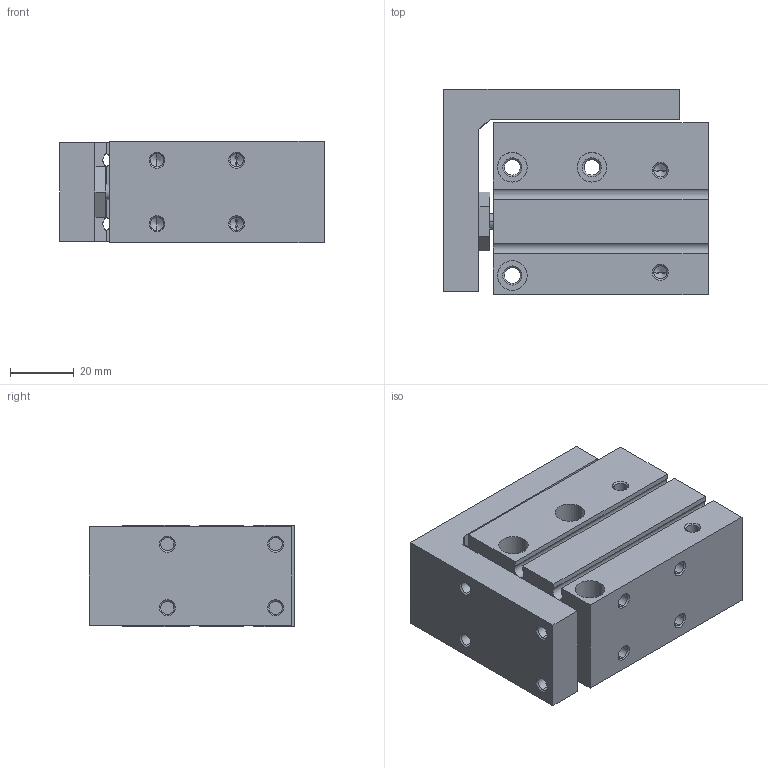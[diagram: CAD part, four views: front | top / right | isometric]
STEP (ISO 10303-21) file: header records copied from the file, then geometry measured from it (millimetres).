
FILE_DESCRIPTION (( 'STEP AP203' ), '1' );
FILE_NAME ('CXH20-15.STEP', '2020-04-16T18:14:33', ( '' ), ( '' ), 'SwSTEP 2.0', 'SolidWorks 2019', '' );
FILE_SCHEMA (( 'CONFIG_CONTROL_DESIGN' ));
Length unit declared in the file: millimetre
Products named in the file (1): CXH20-15
Bounding box: 83 x 64.5 x 32 mm (x, y, z)
Volume: 141983.6 mm3; surface area: 37351.4 mm2
Topology: 2 solids, 2 shells, 210 faces, 499 edges, 288 vertices
Faces by surface type: cone 90, cylinder 76, plane 44
Entity records: 6040 total; most frequent: DIRECTION 1099, CARTESIAN_POINT 1080, ORIENTED_EDGE 942, EDGE_CURVE 471, AXIS2_PLACEMENT_3D 423, VERTEX_POINT 288, EDGE_LOOP 255, VECTOR 253
